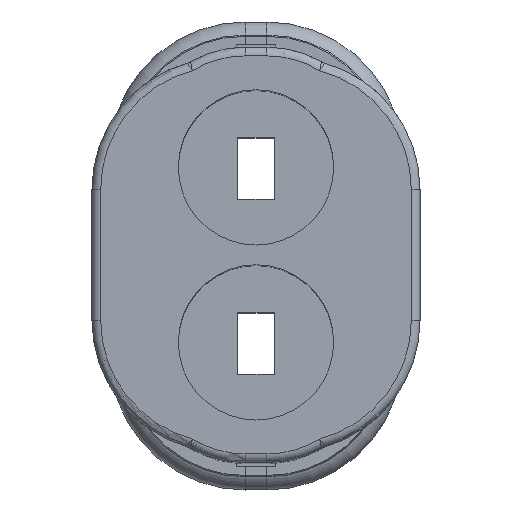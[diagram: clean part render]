
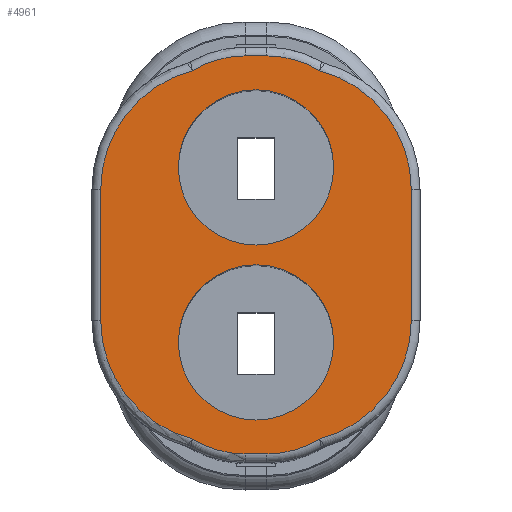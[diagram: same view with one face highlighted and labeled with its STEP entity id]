
A CAD part, top view. The second image highlights one B-rep face of the part: STEP entity #4961.
In plain terms, the highlighted planar face has unit normal (0, 0, 1).
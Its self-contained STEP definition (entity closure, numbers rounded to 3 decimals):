
#17=FACE_BOUND('',#774,.T.);
#18=FACE_BOUND('',#775,.T.);
#472=FACE_OUTER_BOUND('',#773,.T.);
#773=EDGE_LOOP('',(#3731,#3732,#3733,#3734,#3735,#3736,#3737,#3738,#3739,
#3740,#3741,#3742));
#774=EDGE_LOOP('',(#3743));
#775=EDGE_LOOP('',(#3744));
#1057=LINE('',#8470,#1431);
#1058=LINE('',#8479,#1432);
#1060=LINE('',#8485,#1434);
#1062=LINE('',#8490,#1436);
#1431=VECTOR('',#6318,10.);
#1432=VECTOR('',#6329,10.);
#1434=VECTOR('',#6339,10.);
#1436=VECTOR('',#6345,10.);
#1833=CIRCLE('',#5369,2.3);
#1837=CIRCLE('',#5374,2.8);
#1858=CIRCLE('',#5406,2.8);
#1862=CIRCLE('',#5411,2.3);
#1871=CIRCLE('',#5429,2.8);
#1873=CIRCLE('',#5433,2.3);
#1875=CIRCLE('',#5437,2.3);
#1878=CIRCLE('',#5443,2.8);
#1881=CIRCLE('',#5449,1.775);
#1882=CIRCLE('',#5450,1.775);
#2046=VERTEX_POINT('',#7486);
#2061=VERTEX_POINT('',#7671);
#2145=VERTEX_POINT('',#8179);
#2147=VERTEX_POINT('',#8185);
#2150=VERTEX_POINT('',#8215);
#2165=VERTEX_POINT('',#8393);
#2172=VERTEX_POINT('',#8429);
#2174=VERTEX_POINT('',#8435);
#2180=VERTEX_POINT('',#8466);
#2181=VERTEX_POINT('',#8472);
#2183=VERTEX_POINT('',#8477);
#2184=VERTEX_POINT('',#8488);
#2189=VERTEX_POINT('',#8506);
#2190=VERTEX_POINT('',#8508);
#2687=EDGE_CURVE('',#2046,#2145,#1833,.T.);
#2691=EDGE_CURVE('',#2147,#2046,#1837,.T.);
#2729=EDGE_CURVE('',#2150,#2172,#1858,.T.);
#2733=EDGE_CURVE('',#2174,#2150,#1862,.T.);
#2749=EDGE_CURVE('',#2180,#2165,#1871,.T.);
#2750=EDGE_CURVE('',#2172,#2180,#1057,.T.);
#2752=EDGE_CURVE('',#2181,#2061,#1873,.T.);
#2754=EDGE_CURVE('',#2183,#2181,#1058,.T.);
#2756=EDGE_CURVE('',#2165,#2183,#1875,.T.);
#2758=EDGE_CURVE('',#2145,#2174,#1060,.T.);
#2761=EDGE_CURVE('',#2184,#2147,#1062,.T.);
#2762=EDGE_CURVE('',#2061,#2184,#1878,.T.);
#2769=EDGE_CURVE('',#2189,#2189,#1881,.T.);
#2770=EDGE_CURVE('',#2190,#2190,#1882,.T.);
#3731=ORIENTED_EDGE('',*,*,#2752,.F.);
#3732=ORIENTED_EDGE('',*,*,#2754,.F.);
#3733=ORIENTED_EDGE('',*,*,#2756,.F.);
#3734=ORIENTED_EDGE('',*,*,#2749,.F.);
#3735=ORIENTED_EDGE('',*,*,#2750,.F.);
#3736=ORIENTED_EDGE('',*,*,#2729,.F.);
#3737=ORIENTED_EDGE('',*,*,#2733,.F.);
#3738=ORIENTED_EDGE('',*,*,#2758,.F.);
#3739=ORIENTED_EDGE('',*,*,#2687,.F.);
#3740=ORIENTED_EDGE('',*,*,#2691,.F.);
#3741=ORIENTED_EDGE('',*,*,#2761,.F.);
#3742=ORIENTED_EDGE('',*,*,#2762,.F.);
#3743=ORIENTED_EDGE('',*,*,#2769,.T.);
#3744=ORIENTED_EDGE('',*,*,#2770,.T.);
#4759=PLANE('',#5448);
#4961=ADVANCED_FACE('',(#472,#17,#18),#4759,.F.);
#5369=AXIS2_PLACEMENT_3D('',#8180,#6178,#6179);
#5374=AXIS2_PLACEMENT_3D('',#8187,#6188,#6189);
#5406=AXIS2_PLACEMENT_3D('',#8430,#6261,#6262);
#5411=AXIS2_PLACEMENT_3D('',#8437,#6271,#6272);
#5429=AXIS2_PLACEMENT_3D('',#8468,#6314,#6315);
#5433=AXIS2_PLACEMENT_3D('',#8474,#6323,#6324);
#5437=AXIS2_PLACEMENT_3D('',#8482,#6333,#6334);
#5443=AXIS2_PLACEMENT_3D('',#8492,#6348,#6349);
#5448=AXIS2_PLACEMENT_3D('',#8505,#6362,#6363);
#5449=AXIS2_PLACEMENT_3D('',#8507,#6364,#6365);
#5450=AXIS2_PLACEMENT_3D('',#8509,#6366,#6367);
#6178=DIRECTION('center_axis',(0.,0.,-1.));
#6179=DIRECTION('ref_axis',(-0.266,0.964,0.));
#6188=DIRECTION('center_axis',(0.,0.,-1.));
#6189=DIRECTION('ref_axis',(-0.794,0.608,0.));
#6261=DIRECTION('center_axis',(0.,0.,-1.));
#6262=DIRECTION('ref_axis',(0.794,0.608,0.));
#6271=DIRECTION('center_axis',(0.,0.,-1.));
#6272=DIRECTION('ref_axis',(0.266,0.964,0.));
#6314=DIRECTION('center_axis',(0.,0.,-1.));
#6315=DIRECTION('ref_axis',(0.794,-0.608,0.));
#6318=DIRECTION('',(0.,-1.,0.));
#6323=DIRECTION('center_axis',(0.,0.,-1.));
#6324=DIRECTION('ref_axis',(-0.266,-0.964,0.));
#6329=DIRECTION('',(-1.,0.,0.));
#6333=DIRECTION('center_axis',(0.,0.,-1.));
#6334=DIRECTION('ref_axis',(0.266,-0.964,0.));
#6339=DIRECTION('',(1.,0.,0.));
#6345=DIRECTION('',(0.,1.,0.));
#6348=DIRECTION('center_axis',(0.,0.,-1.));
#6349=DIRECTION('ref_axis',(-0.794,-0.608,0.));
#6362=DIRECTION('center_axis',(0.,0.,-1.));
#6363=DIRECTION('ref_axis',(-1.,0.,0.));
#6364=DIRECTION('center_axis',(0.,0.,-1.));
#6365=DIRECTION('ref_axis',(1.,0.,0.));
#6366=DIRECTION('center_axis',(0.,0.,-1.));
#6367=DIRECTION('ref_axis',(1.,0.,0.));
#7486=CARTESIAN_POINT('',(-1.453,10.21,26.25));
#7671=CARTESIAN_POINT('',(-1.453,1.79,26.25));
#8179=CARTESIAN_POINT('',(-0.25,10.55,26.25));
#8180=CARTESIAN_POINT('Origin',(-0.25,8.25,26.25));
#8185=CARTESIAN_POINT('',(-3.55,7.5,26.25));
#8187=CARTESIAN_POINT('Origin',(-0.75,7.5,26.25));
#8215=CARTESIAN_POINT('',(1.453,10.21,26.25));
#8393=CARTESIAN_POINT('',(1.453,1.79,26.25));
#8429=CARTESIAN_POINT('',(3.55,7.5,26.25));
#8430=CARTESIAN_POINT('Origin',(0.75,7.5,26.25));
#8435=CARTESIAN_POINT('',(0.25,10.55,26.25));
#8437=CARTESIAN_POINT('Origin',(0.25,8.25,26.25));
#8466=CARTESIAN_POINT('',(3.55,4.5,26.25));
#8468=CARTESIAN_POINT('Origin',(0.75,4.5,26.25));
#8470=CARTESIAN_POINT('',(3.55,7.875,26.25));
#8472=CARTESIAN_POINT('',(-0.25,1.45,26.25));
#8474=CARTESIAN_POINT('Origin',(-0.25,3.75,26.25));
#8477=CARTESIAN_POINT('',(0.25,1.45,26.25));
#8479=CARTESIAN_POINT('',(-3.3,1.45,26.25));
#8482=CARTESIAN_POINT('Origin',(0.25,3.75,26.25));
#8485=CARTESIAN_POINT('',(-3.3,10.55,26.25));
#8488=CARTESIAN_POINT('',(-3.55,4.5,26.25));
#8490=CARTESIAN_POINT('',(-3.55,4.375,26.25));
#8492=CARTESIAN_POINT('Origin',(-0.75,4.5,26.25));
#8505=CARTESIAN_POINT('Origin',(-6.35,4.25,26.25));
#8506=CARTESIAN_POINT('',(-1.775,4.,26.25));
#8507=CARTESIAN_POINT('Origin',(0.,4.,26.25));
#8508=CARTESIAN_POINT('',(-1.775,8.,26.25));
#8509=CARTESIAN_POINT('Origin',(0.,8.,26.25));
